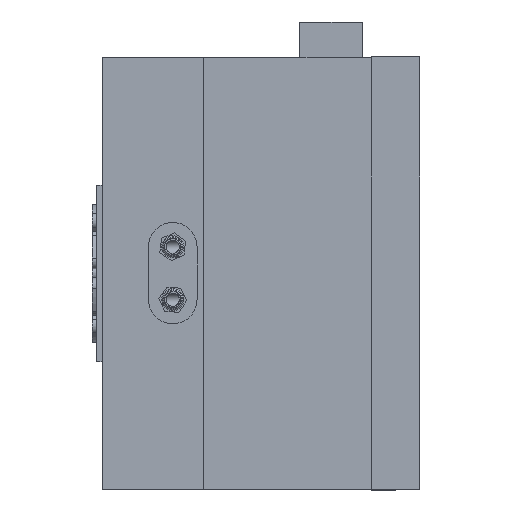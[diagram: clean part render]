
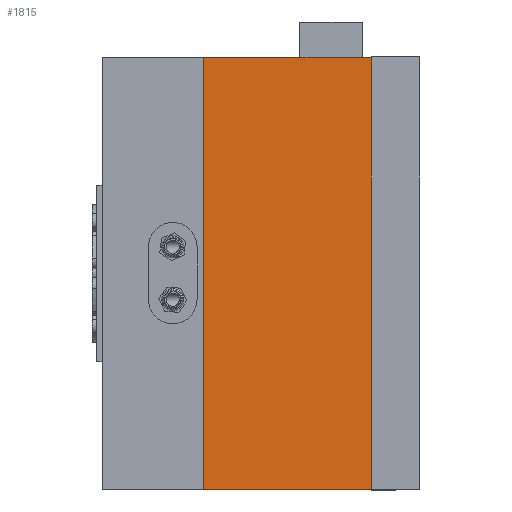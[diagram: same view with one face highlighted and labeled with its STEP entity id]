
A CAD part, top view. The second image highlights one B-rep face of the part: STEP entity #1815.
In plain terms, the highlighted planar face has unit normal (0, 0, 1) as drawn and (0, 1, 0) by its records, which use the part's own axes.
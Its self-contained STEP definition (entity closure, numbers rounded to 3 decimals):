
#1106 = VERTEX_POINT ( 'NONE', #6426 ) ;
#1815 = ADVANCED_FACE ( 'NONE', ( #12777 ), #2007, .T. ) ;
#2007 = PLANE ( 'NONE',  #12005 ) ;
#3046 = CARTESIAN_POINT ( 'NONE',  ( -38., 78., -98. ) ) ;
#3580 = CARTESIAN_POINT ( 'NONE',  ( 0., 78., 98. ) ) ;
#5020 = VERTEX_POINT ( 'NONE', #3580 ) ;
#5378 = DIRECTION ( 'NONE',  ( 0., 1., 0. ) ) ;
#6426 = CARTESIAN_POINT ( 'NONE',  ( 0., 78., -98. ) ) ;
#7330 = DIRECTION ( 'NONE',  ( 1., 0., 0. ) ) ;
#9527 = EDGE_CURVE ( 'NONE', #5020, #1106, #32744, .T. ) ;
#10494 = DIRECTION ( 'NONE',  ( 0., 0., -1. ) ) ;
#11467 = EDGE_CURVE ( 'NONE', #41958, #16295, #44611, .T. ) ;
#12005 = AXIS2_PLACEMENT_3D ( 'NONE', #13005, #5378, #34552 ) ;
#12090 = EDGE_CURVE ( 'NONE', #5020, #41958, #39510, .T. ) ;
#12212 = ORIENTED_EDGE ( 'NONE', *, *, #12090, .F. ) ;
#12452 = VECTOR ( 'NONE', #7330, 1000. ) ;
#12777 = FACE_OUTER_BOUND ( 'NONE', #41763, .T. ) ;
#13005 = CARTESIAN_POINT ( 'NONE',  ( -38., 78., 0. ) ) ;
#13008 = CARTESIAN_POINT ( 'NONE',  ( -76., 78., -98. ) ) ;
#13344 = VECTOR ( 'NONE', #10494, 1000. ) ;
#13561 = VECTOR ( 'NONE', #23569, 1000. ) ;
#14308 = EDGE_CURVE ( 'NONE', #16295, #1106, #36053, .T. ) ;
#14549 = CARTESIAN_POINT ( 'NONE',  ( 0., 78., 0. ) ) ;
#14859 = CARTESIAN_POINT ( 'NONE',  ( -76., 78., 98. ) ) ;
#16295 = VERTEX_POINT ( 'NONE', #13008 ) ;
#18916 = VECTOR ( 'NONE', #36624, 1000. ) ;
#19489 = CARTESIAN_POINT ( 'NONE',  ( -76., 78., 0. ) ) ;
#23569 = DIRECTION ( 'NONE',  ( 0., 0., -1. ) ) ;
#23648 = ORIENTED_EDGE ( 'NONE', *, *, #9527, .T. ) ;
#32744 = LINE ( 'NONE', #14549, #13344 ) ;
#33346 = ORIENTED_EDGE ( 'NONE', *, *, #11467, .F. ) ;
#34552 = DIRECTION ( 'NONE',  ( 0., 0., 1. ) ) ;
#36053 = LINE ( 'NONE', #3046, #12452 ) ;
#36624 = DIRECTION ( 'NONE',  ( -1., 0., 0. ) ) ;
#37467 = ORIENTED_EDGE ( 'NONE', *, *, #14308, .F. ) ;
#39510 = LINE ( 'NONE', #46462, #18916 ) ;
#41763 = EDGE_LOOP ( 'NONE', ( #23648, #37467, #33346, #12212 ) ) ;
#41958 = VERTEX_POINT ( 'NONE', #14859 ) ;
#44611 = LINE ( 'NONE', #19489, #13561 ) ;
#46462 = CARTESIAN_POINT ( 'NONE',  ( -38., 78., 98. ) ) ;
